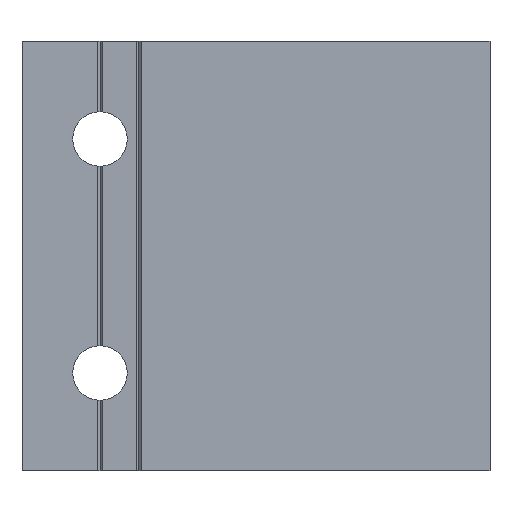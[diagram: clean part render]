
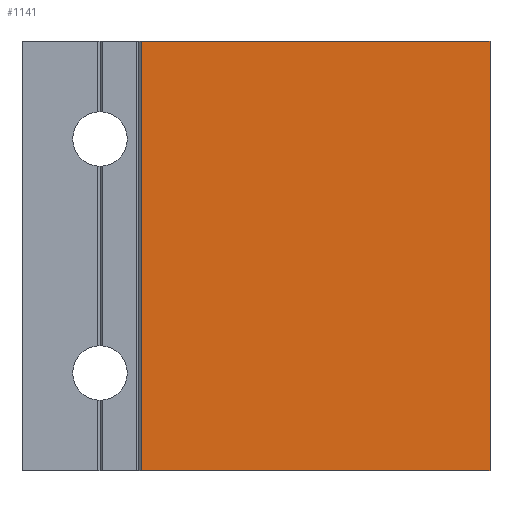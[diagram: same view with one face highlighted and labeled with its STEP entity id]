
A CAD part, front view. The second image highlights one B-rep face of the part: STEP entity #1141.
In plain terms, the highlighted planar face has unit normal (0, -1, 0).
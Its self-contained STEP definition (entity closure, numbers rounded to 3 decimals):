
#27 = CARTESIAN_POINT ( 'NONE',  ( -44.7, 0., 27.5 ) ) ;
#102 = CARTESIAN_POINT ( 'NONE',  ( 0., 0., -27.5 ) ) ;
#118 = CARTESIAN_POINT ( 'NONE',  ( -44.7, 0., -27.5 ) ) ;
#238 = DIRECTION ( 'NONE',  ( 0., 1., 0. ) ) ;
#323 = DIRECTION ( 'NONE',  ( 1., 0., 0. ) ) ;
#329 = DIRECTION ( 'NONE',  ( 0., 0., -1. ) ) ;
#330 = CARTESIAN_POINT ( 'NONE',  ( 0., 0., 27.5 ) ) ;
#336 = CARTESIAN_POINT ( 'NONE',  ( 0., 0., 27.5 ) ) ;
#386 = CARTESIAN_POINT ( 'NONE',  ( -44.7, 0., 27.5 ) ) ;
#422 = CARTESIAN_POINT ( 'NONE',  ( 0., 0., 27.5 ) ) ;
#444 = DIRECTION ( 'NONE',  ( 0., 0., 1. ) ) ;
#587 = DIRECTION ( 'NONE',  ( 1., 0., 0. ) ) ;
#602 = CARTESIAN_POINT ( 'NONE',  ( 0., 0., -27.5 ) ) ;
#606 = DIRECTION ( 'NONE',  ( 0., 0., -1. ) ) ;
#609 = PLANE ( 'NONE',  #1959 ) ;
#611 = CARTESIAN_POINT ( 'NONE',  ( 0., 0., 27.5 ) ) ;
#814 = LINE ( 'NONE', #386, #854 ) ;
#816 = VECTOR ( 'NONE', #587, 1000. ) ;
#841 = LINE ( 'NONE', #330, #874 ) ;
#845 = VECTOR ( 'NONE', #606, 1000. ) ;
#854 = VECTOR ( 'NONE', #329, 1000. ) ;
#874 = VECTOR ( 'NONE', #323, 1000. ) ;
#1062 = LINE ( 'NONE', #602, #816 ) ;
#1092 = LINE ( 'NONE', #611, #845 ) ;
#1141 = ADVANCED_FACE ( 'NONE', ( #1619 ), #609, .F. ) ;
#1176 = ORIENTED_EDGE ( 'NONE', *, *, #1487, .F. ) ;
#1208 = ORIENTED_EDGE ( 'NONE', *, *, #1467, .T. ) ;
#1224 = ORIENTED_EDGE ( 'NONE', *, *, #1488, .T. ) ;
#1253 = ORIENTED_EDGE ( 'NONE', *, *, #1469, .F. ) ;
#1467 = EDGE_CURVE ( 'NONE', #1740, #2101, #814, .T. ) ;
#1469 = EDGE_CURVE ( 'NONE', #1740, #1579, #841, .T. ) ;
#1487 = EDGE_CURVE ( 'NONE', #1579, #2037, #1092, .T. ) ;
#1488 = EDGE_CURVE ( 'NONE', #2101, #2037, #1062, .T. ) ;
#1579 = VERTEX_POINT ( 'NONE', #422 ) ;
#1619 = FACE_OUTER_BOUND ( 'NONE', #1758, .T. ) ;
#1740 = VERTEX_POINT ( 'NONE', #27 ) ;
#1758 = EDGE_LOOP ( 'NONE', ( #1224, #1176, #1253, #1208 ) ) ;
#1959 = AXIS2_PLACEMENT_3D ( 'NONE', #336, #238, #444 ) ;
#2037 = VERTEX_POINT ( 'NONE', #102 ) ;
#2101 = VERTEX_POINT ( 'NONE', #118 ) ;
